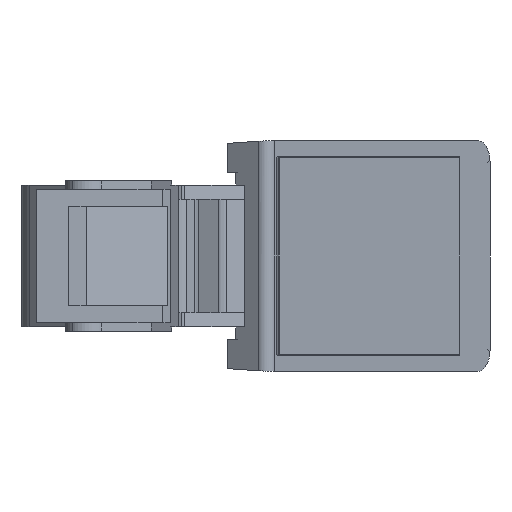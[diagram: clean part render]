
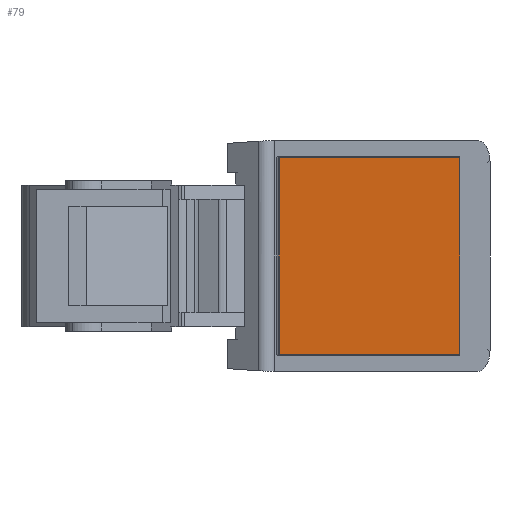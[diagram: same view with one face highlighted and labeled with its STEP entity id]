
A CAD part, front view. The second image highlights one B-rep face of the part: STEP entity #79.
In plain terms, the highlighted planar face has unit normal (0.819, -0.574, 0).
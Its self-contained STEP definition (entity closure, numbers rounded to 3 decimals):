
#79 = ADVANCED_FACE ( 'NONE', ( #1882 ), #4088, .T. ) ;
#314 = VERTEX_POINT ( 'NONE', #1267 ) ;
#345 = ORIENTED_EDGE ( 'NONE', *, *, #1847, .T. ) ;
#363 = CARTESIAN_POINT ( 'NONE',  ( 37.481, 75.642, -13.85 ) ) ;
#648 = VERTEX_POINT ( 'NONE', #1957 ) ;
#810 = EDGE_LOOP ( 'NONE', ( #345, #1673, #2508, #1975 ) ) ;
#836 = CARTESIAN_POINT ( 'NONE',  ( 11.957, 39.19, 13.85 ) ) ;
#883 = VERTEX_POINT ( 'NONE', #3656 ) ;
#1248 = VERTEX_POINT ( 'NONE', #2589 ) ;
#1267 = CARTESIAN_POINT ( 'NONE',  ( 12.014, 39.272, 13.85 ) ) ;
#1280 = AXIS2_PLACEMENT_3D ( 'NONE', #3202, #3804, #1889 ) ;
#1441 = CARTESIAN_POINT ( 'NONE',  ( 37.424, 75.56, 13.95 ) ) ;
#1673 = ORIENTED_EDGE ( 'NONE', *, *, #3547, .T. ) ;
#1826 = DIRECTION ( 'NONE',  ( 0., 0., -1. ) ) ;
#1847 = EDGE_CURVE ( 'NONE', #648, #314, #2628, .T. ) ;
#1856 = DIRECTION ( 'NONE',  ( 0., 0., 1. ) ) ;
#1882 = FACE_OUTER_BOUND ( 'NONE', #810, .T. ) ;
#1889 = DIRECTION ( 'NONE',  ( 0.574, 0.819, 0. ) ) ;
#1957 = CARTESIAN_POINT ( 'NONE',  ( 37.424, 75.56, 13.85 ) ) ;
#1975 = ORIENTED_EDGE ( 'NONE', *, *, #4208, .T. ) ;
#2356 = VECTOR ( 'NONE', #1856, 1000. ) ;
#2368 = LINE ( 'NONE', #1441, #2356 ) ;
#2445 = VECTOR ( 'NONE', #3054, 1000. ) ;
#2508 = ORIENTED_EDGE ( 'NONE', *, *, #3868, .T. ) ;
#2589 = CARTESIAN_POINT ( 'NONE',  ( 37.424, 75.56, -13.85 ) ) ;
#2628 = LINE ( 'NONE', #836, #2445 ) ;
#3054 = DIRECTION ( 'NONE',  ( -0.574, -0.819, 0. ) ) ;
#3202 = CARTESIAN_POINT ( 'NONE',  ( -18.241, -3.938, 0. ) ) ;
#3323 = VECTOR ( 'NONE', #4238, 1000. ) ;
#3412 = LINE ( 'NONE', #363, #3323 ) ;
#3547 = EDGE_CURVE ( 'NONE', #314, #883, #4418, .T. ) ;
#3656 = CARTESIAN_POINT ( 'NONE',  ( 12.014, 39.272, -13.85 ) ) ;
#3759 = CARTESIAN_POINT ( 'NONE',  ( 12.014, 39.272, -13.95 ) ) ;
#3804 = DIRECTION ( 'NONE',  ( 0.819, -0.574, 0. ) ) ;
#3868 = EDGE_CURVE ( 'NONE', #883, #1248, #3412, .T. ) ;
#4088 = PLANE ( 'NONE',  #1280 ) ;
#4208 = EDGE_CURVE ( 'NONE', #1248, #648, #2368, .T. ) ;
#4238 = DIRECTION ( 'NONE',  ( 0.574, 0.819, 0. ) ) ;
#4313 = VECTOR ( 'NONE', #1826, 1000. ) ;
#4418 = LINE ( 'NONE', #3759, #4313 ) ;
